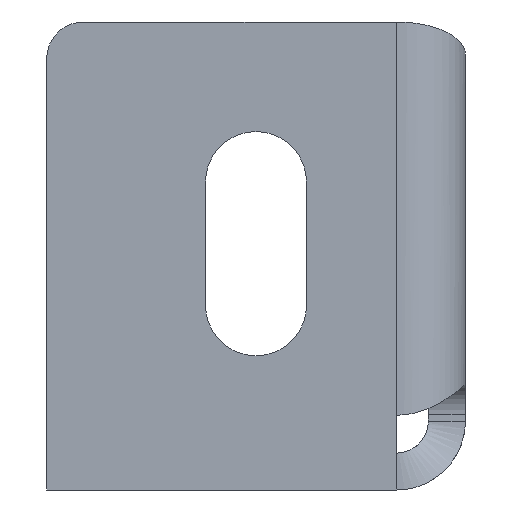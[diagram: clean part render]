
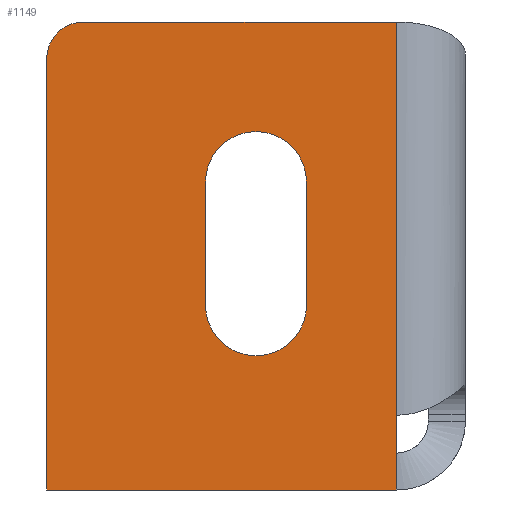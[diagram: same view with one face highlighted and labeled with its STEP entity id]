
A CAD part, front view. The second image highlights one B-rep face of the part: STEP entity #1149.
In plain terms, the highlighted planar face has unit normal (0, -1, 0).
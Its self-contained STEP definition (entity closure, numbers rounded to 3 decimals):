
#6 = DIRECTION ( 'NONE',  ( 0., 1., 0. ) ) ;
#14 = EDGE_CURVE ( 'NONE', #580, #290, #1060, .T. ) ;
#17 = AXIS2_PLACEMENT_3D ( 'NONE', #35, #801, #899 ) ;
#35 = CARTESIAN_POINT ( 'NONE',  ( -16.217, -14.803, 38. ) ) ;
#57 = AXIS2_PLACEMENT_3D ( 'NONE', #791, #688, #401 ) ;
#91 = VECTOR ( 'NONE', #1139, 1000. ) ;
#94 = CARTESIAN_POINT ( 'NONE',  ( -16.217, -14.803, 0. ) ) ;
#102 = VERTEX_POINT ( 'NONE', #244 ) ;
#114 = CARTESIAN_POINT ( 'NONE',  ( 12.183, -14.803, 6.071 ) ) ;
#117 = CARTESIAN_POINT ( 'NONE',  ( -3.317, -14.803, 15. ) ) ;
#141 = EDGE_CURVE ( 'NONE', #686, #926, #219, .T. ) ;
#147 = EDGE_LOOP ( 'NONE', ( #968, #810, #448, #272, #335, #232 ) ) ;
#148 = DIRECTION ( 'NONE',  ( 0., 0., -1. ) ) ;
#154 = VERTEX_POINT ( 'NONE', #348 ) ;
#158 = LINE ( 'NONE', #828, #639 ) ;
#179 = CARTESIAN_POINT ( 'NONE',  ( 0.783, -14.803, 25. ) ) ;
#194 = AXIS2_PLACEMENT_3D ( 'NONE', #179, #6, #381 ) ;
#195 = ORIENTED_EDGE ( 'NONE', *, *, #884, .T. ) ;
#200 = EDGE_LOOP ( 'NONE', ( #1219, #254, #195, #895, #246 ) ) ;
#201 = LINE ( 'NONE', #114, #1182 ) ;
#210 = CARTESIAN_POINT ( 'NONE',  ( -16.217, -14.803, 38. ) ) ;
#219 = LINE ( 'NONE', #436, #1232 ) ;
#232 = ORIENTED_EDGE ( 'NONE', *, *, #759, .F. ) ;
#242 = CARTESIAN_POINT ( 'NONE',  ( 4.883, -14.803, 25. ) ) ;
#244 = CARTESIAN_POINT ( 'NONE',  ( -3.317, -14.803, 25. ) ) ;
#246 = ORIENTED_EDGE ( 'NONE', *, *, #333, .T. ) ;
#254 = ORIENTED_EDGE ( 'NONE', *, *, #1115, .T. ) ;
#272 = ORIENTED_EDGE ( 'NONE', *, *, #1230, .F. ) ;
#286 = CARTESIAN_POINT ( 'NONE',  ( 4.883, -14.803, 15. ) ) ;
#290 = VERTEX_POINT ( 'NONE', #1215 ) ;
#333 = EDGE_CURVE ( 'NONE', #926, #1144, #1044, .T. ) ;
#335 = ORIENTED_EDGE ( 'NONE', *, *, #1066, .F. ) ;
#348 = CARTESIAN_POINT ( 'NONE',  ( 0.783, -14.803, 29.1 ) ) ;
#355 = AXIS2_PLACEMENT_3D ( 'NONE', #784, #1126, #438 ) ;
#373 = VECTOR ( 'NONE', #1193, 1000. ) ;
#381 = DIRECTION ( 'NONE',  ( 0., 0., 1. ) ) ;
#394 = CIRCLE ( 'NONE', #57, 4.1 ) ;
#401 = DIRECTION ( 'NONE',  ( 0., 0., 1. ) ) ;
#436 = CARTESIAN_POINT ( 'NONE',  ( 4.883, -14.803, 38. ) ) ;
#438 = DIRECTION ( 'NONE',  ( 0., 0., -1. ) ) ;
#448 = ORIENTED_EDGE ( 'NONE', *, *, #1108, .T. ) ;
#453 = DIRECTION ( 'NONE',  ( -1., 0., 0. ) ) ;
#454 = CARTESIAN_POINT ( 'NONE',  ( -3.317, -14.803, 38. ) ) ;
#464 = CARTESIAN_POINT ( 'NONE',  ( 12.183, -14.803, 38. ) ) ;
#480 = VERTEX_POINT ( 'NONE', #710 ) ;
#495 = VERTEX_POINT ( 'NONE', #936 ) ;
#531 = CIRCLE ( 'NONE', #355, 3. ) ;
#536 = CARTESIAN_POINT ( 'NONE',  ( -16.217, -14.803, 38. ) ) ;
#547 = CIRCLE ( 'NONE', #194, 4.1 ) ;
#580 = VERTEX_POINT ( 'NONE', #464 ) ;
#584 = FACE_BOUND ( 'NONE', #200, .T. ) ;
#620 = LINE ( 'NONE', #210, #373 ) ;
#623 = LINE ( 'NONE', #941, #1124 ) ;
#632 = VERTEX_POINT ( 'NONE', #94 ) ;
#639 = VECTOR ( 'NONE', #148, 1000. ) ;
#647 = EDGE_CURVE ( 'NONE', #495, #290, #531, .T. ) ;
#674 = AXIS2_PLACEMENT_3D ( 'NONE', #928, #831, #1117 ) ;
#686 = VERTEX_POINT ( 'NONE', #242 ) ;
#688 = DIRECTION ( 'NONE',  ( 0., 1., 0. ) ) ;
#710 = CARTESIAN_POINT ( 'NONE',  ( 12.183, -14.803, 0. ) ) ;
#759 = EDGE_CURVE ( 'NONE', #580, #1214, #158, .T. ) ;
#784 = CARTESIAN_POINT ( 'NONE',  ( -13.217, -14.803, 35. ) ) ;
#791 = CARTESIAN_POINT ( 'NONE',  ( 0.783, -14.803, 25. ) ) ;
#800 = VECTOR ( 'NONE', #1113, 1000. ) ;
#801 = DIRECTION ( 'NONE',  ( 0., -1., 0. ) ) ;
#810 = ORIENTED_EDGE ( 'NONE', *, *, #647, .F. ) ;
#828 = CARTESIAN_POINT ( 'NONE',  ( 12.183, -14.803, 38. ) ) ;
#831 = DIRECTION ( 'NONE',  ( 0., 1., 0. ) ) ;
#834 = CARTESIAN_POINT ( 'NONE',  ( 12.183, -14.803, 6.071 ) ) ;
#884 = EDGE_CURVE ( 'NONE', #154, #686, #547, .T. ) ;
#895 = ORIENTED_EDGE ( 'NONE', *, *, #141, .T. ) ;
#897 = PLANE ( 'NONE',  #17 ) ;
#899 = DIRECTION ( 'NONE',  ( 0., 0., -1. ) ) ;
#905 = DIRECTION ( 'NONE',  ( 0., 0., -1. ) ) ;
#926 = VERTEX_POINT ( 'NONE', #286 ) ;
#928 = CARTESIAN_POINT ( 'NONE',  ( 0.783, -14.803, 15. ) ) ;
#936 = CARTESIAN_POINT ( 'NONE',  ( -16.217, -14.803, 35. ) ) ;
#941 = CARTESIAN_POINT ( 'NONE',  ( 12.183, -14.803, 0. ) ) ;
#968 = ORIENTED_EDGE ( 'NONE', *, *, #14, .T. ) ;
#1044 = CIRCLE ( 'NONE', #674, 4.1 ) ;
#1060 = LINE ( 'NONE', #536, #800 ) ;
#1066 = EDGE_CURVE ( 'NONE', #1214, #480, #201, .T. ) ;
#1083 = FACE_OUTER_BOUND ( 'NONE', #147, .T. ) ;
#1088 = LINE ( 'NONE', #454, #91 ) ;
#1108 = EDGE_CURVE ( 'NONE', #495, #632, #620, .T. ) ;
#1113 = DIRECTION ( 'NONE',  ( -1., 0., 0. ) ) ;
#1115 = EDGE_CURVE ( 'NONE', #102, #154, #394, .T. ) ;
#1117 = DIRECTION ( 'NONE',  ( 0., 0., 1. ) ) ;
#1124 = VECTOR ( 'NONE', #453, 1000. ) ;
#1126 = DIRECTION ( 'NONE',  ( 0., 1., 0. ) ) ;
#1139 = DIRECTION ( 'NONE',  ( 0., 0., 1. ) ) ;
#1144 = VERTEX_POINT ( 'NONE', #117 ) ;
#1149 = ADVANCED_FACE ( 'NONE', ( #584, #1083 ), #897, .T. ) ;
#1182 = VECTOR ( 'NONE', #905, 1000. ) ;
#1193 = DIRECTION ( 'NONE',  ( 0., 0., -1. ) ) ;
#1214 = VERTEX_POINT ( 'NONE', #834 ) ;
#1215 = CARTESIAN_POINT ( 'NONE',  ( -13.217, -14.803, 38. ) ) ;
#1216 = DIRECTION ( 'NONE',  ( 0., 0., -1. ) ) ;
#1219 = ORIENTED_EDGE ( 'NONE', *, *, #1249, .T. ) ;
#1230 = EDGE_CURVE ( 'NONE', #480, #632, #623, .T. ) ;
#1232 = VECTOR ( 'NONE', #1216, 1000. ) ;
#1249 = EDGE_CURVE ( 'NONE', #1144, #102, #1088, .T. ) ;
